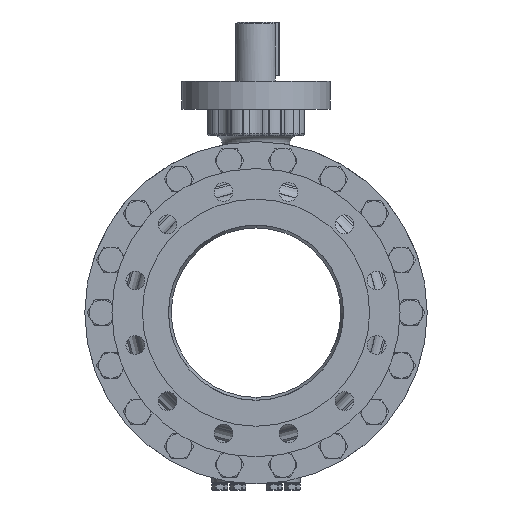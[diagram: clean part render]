
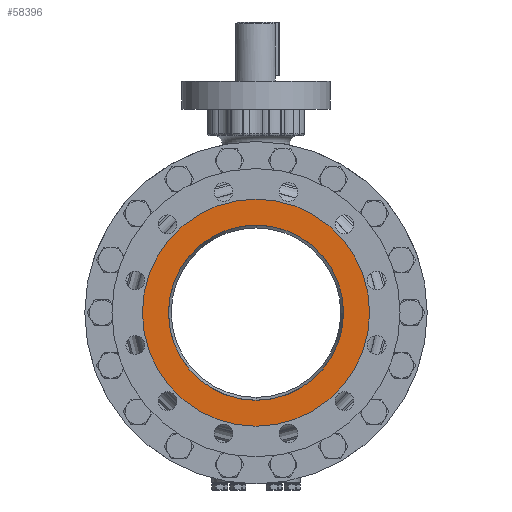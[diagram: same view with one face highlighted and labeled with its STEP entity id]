
A CAD part, left-side view. The second image highlights one B-rep face of the part: STEP entity #58396.
In plain terms, the highlighted planar face has unit normal (-1, 0, 0).
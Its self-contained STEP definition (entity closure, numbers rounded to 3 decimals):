
#3322=CARTESIAN_POINT('',(-228.5,0.,0.));
#3323=DIRECTION('',(1.,0.,0.));
#3324=DIRECTION('',(0.,0.,1.));
#3325=AXIS2_PLACEMENT_3D('',#3322,#3323,#3324);
#3327=CARTESIAN_POINT('',(-228.5,0.,0.));
#3328=DIRECTION('',(1.,0.,0.));
#3329=DIRECTION('',(0.,0.,-1.));
#3330=AXIS2_PLACEMENT_3D('',#3327,#3328,#3329);
#3332=CARTESIAN_POINT('',(-228.5,0.,0.));
#3333=DIRECTION('',(1.,0.,0.));
#3334=DIRECTION('',(0.,0.,1.));
#3335=AXIS2_PLACEMENT_3D('',#3332,#3333,#3334);
#3337=CARTESIAN_POINT('',(-228.5,0.,0.));
#3338=DIRECTION('',(-1.,0.,0.));
#3339=DIRECTION('',(0.,0.,1.));
#3340=AXIS2_PLACEMENT_3D('',#3337,#3338,#3339);
#49143=CARTESIAN_POINT('',(-228.5,0.,103.35));
#49145=VERTEX_POINT('',#49143);
#49147=CARTESIAN_POINT('',(-228.5,0.,-103.35));
#49149=VERTEX_POINT('',#49147);
#49178=CARTESIAN_POINT('',(-228.5,0.,134.));
#49179=CARTESIAN_POINT('',(-228.5,0.,-134.));
#49180=VERTEX_POINT('',#49178);
#49181=VERTEX_POINT('',#49179);
#58380=CARTESIAN_POINT('',(-228.5,0.,0.));
#58381=DIRECTION('',(-1.,0.,0.));
#58382=DIRECTION('',(0.,0.,-1.));
#58383=AXIS2_PLACEMENT_3D('',#58380,#58381,#58382);
#58384=PLANE('',#58383);
#58386=ORIENTED_EDGE('',*,*,#58385,.T.);
#58387=ORIENTED_EDGE('',*,*,#58370,.T.);
#58388=EDGE_LOOP('',(#58386,#58387));
#58389=FACE_OUTER_BOUND('',#58388,.F.);
#58391=ORIENTED_EDGE('',*,*,#58390,.F.);
#58393=ORIENTED_EDGE('',*,*,#58392,.T.);
#58394=EDGE_LOOP('',(#58391,#58393));
#58395=FACE_BOUND('',#58394,.F.);
#58396=ADVANCED_FACE('',(#58389,#58395),#58384,.T.);
#3326=CIRCLE('',#3325,134.);
#3331=CIRCLE('',#3330,134.);
#3336=CIRCLE('',#3335,103.35);
#3341=CIRCLE('',#3340,103.35);
#58370=EDGE_CURVE('',#49181,#49180,#3331,.T.);
#58385=EDGE_CURVE('',#49180,#49181,#3326,.T.);
#58390=EDGE_CURVE('',#49145,#49149,#3336,.T.);
#58392=EDGE_CURVE('',#49145,#49149,#3341,.T.);
